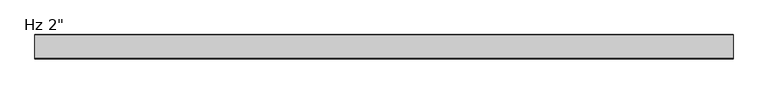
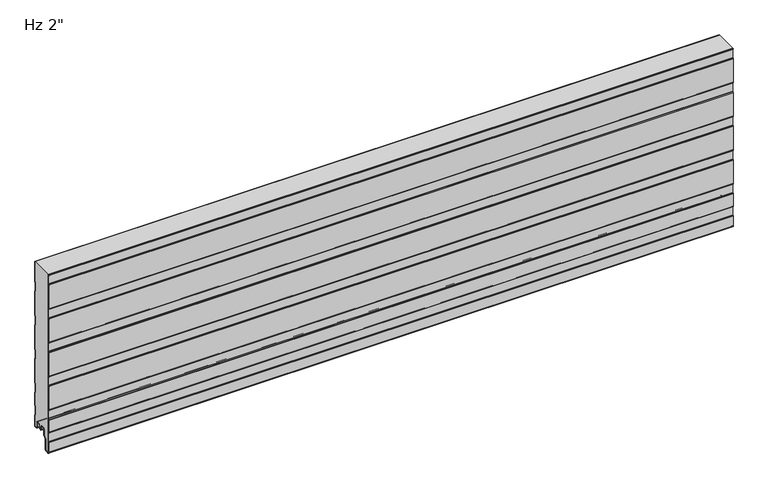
"""IFC4 building model written with IfcOpenShell, lengths in millimetres: plate geometry."""

import ifcopenshell
import ifcopenshell.guid

model = None  # the IFC model being written
_history = None  # IfcOwnerHistory: only IFC2X3 demands one
_inside = {}  # id of a spatial element -> (the spatial element, [elements in it])
_under = {}  # id of a project, library or spatial element -> (it, [spatial elements below it])
_declared = {}  # id of a project -> (the project, [libraries it declares])
_typed = {}  # id of a type object -> (the type object, [elements of that type])
_made_of = {}  # id of a material, layer set ... -> (it, [elements and type objects made of it])


def new_model(schema):
    """Start an empty IFC model of exactly this schema.

    Asked for "IFC4X3", IfcOpenShell would pick the latest addendum, in which some entities
    have other attributes; the version numbers below select the first issue.
    IFC2X3 requires an IfcOwnerHistory on every rooted entity: one is made here for all.
    """
    global model, _history
    if schema == "IFC4X3":
        model = ifcopenshell.file(schema_version=(4, 3, 0, 0))
    else:
        model = ifcopenshell.file(schema=schema)
    _inside.clear()
    _under.clear()
    _declared.clear()
    _typed.clear()
    _made_of.clear()
    _history = None
    if model.schema == "IFC2X3":
        org = make("IfcOrganization", Name="unknown")
        user = make(
            "IfcPersonAndOrganization",
            ThePerson=make("IfcPerson", FamilyName="unknown"),
            TheOrganization=org,
        )
        app = make(
            "IfcApplication",
            ApplicationDeveloper=org,
            Version="unknown",
            ApplicationFullName="unknown",
            ApplicationIdentifier="unknown",
        )
        _history = make(
            "IfcOwnerHistory",
            OwningUser=user,
            OwningApplication=app,
            ChangeAction="ADDED",
            CreationDate=0,
        )
    return model


def make(cls, **values):
    """One entity of the class cls with the attributes given. An attribute that is None is left unset."""
    return model.create_entity(
        cls, **{name: value for name, value in values.items() if value is not None}
    )


def rooted(cls, **values):
    """An entity with a GlobalId (a new one), such as an element, a storey or a relation."""
    return make(cls, GlobalId=ifcopenshell.guid.new(), OwnerHistory=_history, **values)


def si_unit(unit_type, name, prefix=None):
    """IfcSIUnit, for example si_unit("LENGTHUNIT", "METRE", prefix="MILLI")."""
    return make("IfcSIUnit", UnitType=unit_type, Prefix=prefix, Name=name)


def assignment(units):
    """IfcUnitAssignment: the units of a project."""
    return None if units is None else make("IfcUnitAssignment", Units=units)


def point(xyz):
    """IfcCartesianPoint."""
    return None if xyz is None else make("IfcCartesianPoint", Coordinates=xyz)


def direction(xyz):
    """IfcDirection."""
    return None if xyz is None else make("IfcDirection", DirectionRatios=xyz)


def frame(location, z_axis=None, x_axis=None):
    """IfcAxis2Placement3D, a coordinate frame: its origin and axes. An axis left out is left unset."""
    return make(
        "IfcAxis2Placement3D",
        Location=point(location),
        Axis=direction(z_axis),
        RefDirection=direction(x_axis),
    )


def frame_2d(location, x_axis=None):
    """IfcAxis2Placement2D, a coordinate frame in the plane: its origin and x axis."""
    return make(
        "IfcAxis2Placement2D", Location=point(location), RefDirection=direction(x_axis)
    )


def origin():
    """The frame at (0, 0, 0) with its axes left unset."""
    return frame((0.0, 0.0, 0.0))


def place(relative_to, where):
    """IfcLocalPlacement: puts the frame where relative to a parent placement (None: the world)."""
    return make(
        "IfcLocalPlacement", PlacementRelTo=relative_to, RelativePlacement=where
    )


def context(
    kind, dimensions, precision=None, world=None, true_north=None, identifier=None
):
    """IfcGeometricRepresentationContext, for example the 3D "Model" context."""
    return make(
        "IfcGeometricRepresentationContext",
        ContextIdentifier=identifier,
        ContextType=kind,
        CoordinateSpaceDimension=dimensions,
        Precision=precision,
        WorldCoordinateSystem=world,
        TrueNorth=true_north,
    )


def project(units=None, contexts=None):
    """IfcProject with its units and contexts."""
    return rooted(
        "IfcProject",
        Name="project",
        RepresentationContexts=contexts,
        UnitsInContext=assignment(units),
    )


def spatial(cls, under=None, at=None, **own):
    """A site, building, storey or space (cls), placed at a placement, below another one or the project."""
    s = rooted(cls, ObjectPlacement=at, **own)
    if under is not None:
        _under.setdefault(under.id(), (under, []))[1].append(s)
    return s


def polyline(points):
    """IfcPolyline through the points."""
    return make("IfcPolyline", Points=[point(p) for p in points])


def circle_curve(where, radius):
    """IfcCircle in the frame where."""
    return make("IfcCircle", Position=where, Radius=radius)


def trimmed(basis, trim1, trim2, sense, master):
    """IfcTrimmedCurve: the piece of a basis curve between two trims."""
    return make(
        "IfcTrimmedCurve",
        BasisCurve=basis,
        Trim1=trim1,
        Trim2=trim2,
        SenseAgreement=sense,
        MasterRepresentation=master,
    )


def segment(curve, same_sense, transition):
    """IfcCompositeCurveSegment."""
    return make(
        "IfcCompositeCurveSegment",
        Transition=transition,
        SameSense=same_sense,
        ParentCurve=curve,
    )


def composite_curve(segments, self_intersect=None):
    """IfcCompositeCurve: segments joined end to end."""
    return make("IfcCompositeCurve", Segments=segments, SelfIntersect=self_intersect)


def outline(outer, holes=None, kind="AREA"):
    """IfcArbitraryClosedProfileDef: a profile drawn as a closed curve; with holes, ...WithVoids."""
    if holes is None:
        return make("IfcArbitraryClosedProfileDef", ProfileType=kind, OuterCurve=outer)
    return make(
        "IfcArbitraryProfileDefWithVoids",
        ProfileType=kind,
        OuterCurve=outer,
        InnerCurves=holes,
    )


def extrude(swept, where, along, depth):
    """IfcExtrudedAreaSolid: the profile swept, set in the frame where, extruded along a direction by depth."""
    return make(
        "IfcExtrudedAreaSolid",
        SweptArea=swept,
        Position=where,
        ExtrudedDirection=direction(along),
        Depth=depth,
    )


def shape(context_of_items, identifier, shape_type, items):
    """IfcShapeRepresentation: the items that make up one representation, for example the "Body"."""
    return make(
        "IfcShapeRepresentation",
        ContextOfItems=context_of_items,
        RepresentationIdentifier=identifier,
        RepresentationType=shape_type,
        Items=items,
    )


def source(mapping_origin, context_of_items, identifier, shape_type, items):
    """IfcRepresentationMap: a shape defined once, which mapped items show again and again."""
    return make(
        "IfcRepresentationMap",
        MappingOrigin=mapping_origin,
        MappedRepresentation=shape(context_of_items, identifier, shape_type, items),
    )


def transform(
    local_origin,
    x_axis=None,
    y_axis=None,
    z_axis=None,
    scale=None,
    scale2=None,
    scale3=None,
    uniform=True,
):
    """IfcCartesianTransformationOperator3D, or its non-uniform kind. x_axis, y_axis, z_axis: its Axis1, 2, 3."""
    if uniform:
        return make(
            "IfcCartesianTransformationOperator3D",
            Axis1=direction(x_axis),
            Axis2=direction(y_axis),
            LocalOrigin=point(local_origin),
            Scale=scale,
            Axis3=direction(z_axis),
        )
    return make(
        "IfcCartesianTransformationOperator3DnonUniform",
        Axis1=direction(x_axis),
        Axis2=direction(y_axis),
        LocalOrigin=point(local_origin),
        Scale=scale,
        Axis3=direction(z_axis),
        Scale2=scale2,
        Scale3=scale3,
    )


def mapped(mapping_source, mapping_target):
    """IfcMappedItem: shows the shape of a source again, moved by a transform."""
    return make(
        "IfcMappedItem", MappingSource=mapping_source, MappingTarget=mapping_target
    )


def made_of(thing, what):
    """Note that an element or type object is made of a material, layer set ...; save() writes the relation."""
    if what is not None:
        _made_of.setdefault(what.id(), (what, []))[1].append(thing)
    return thing


def element(
    cls,
    number,
    at=None,
    inside=None,
    cuts=None,
    type_object=None,
    material=None,
    context=None,
    identifier="Body",
    shape_type=None,
    held_by="IfcProductDefinitionShape",
    body=None,
    shapes=None,
    **own,
):
    """One element of the class cls, such as IfcWall. Its Tag is "e" and its number.

    at: its placement. inside: the storey or other place that contains it. cuts: it is an
    opening in that element (IfcRelVoidsElement). A single representation is given by context,
    identifier, shape_type and body (its items); several are given by shapes. held_by: the class
    of the entity that holds the representations. save() writes the other relations.
    """
    e = rooted(cls, Tag="e%d" % number, ObjectPlacement=at, **own)
    if body is not None:
        shapes = [shape(context, identifier, shape_type, body)]
    if shapes is not None:
        e.Representation = make(held_by, Representations=shapes)
    if inside is not None:
        _inside.setdefault(inside.id(), (inside, []))[1].append(e)
    if cuts is not None:
        rooted(
            "IfcRelVoidsElement", RelatingBuildingElement=cuts, RelatedOpeningElement=e
        )
    if type_object is not None:
        _typed.setdefault(type_object.id(), (type_object, []))[1].append(e)
    return made_of(e, material)


def aggregate(whole, parts):
    """IfcRelAggregates: a whole, such as a stair, and the parts it consists of."""
    return rooted("IfcRelAggregates", RelatingObject=whole, RelatedObjects=parts)


def save(model, path):
    """Write the relations noted so far, then the file.

    IfcRelAggregates (storeys below a building ...), IfcRelContainedInSpatialStructure (elements
    in a storey), IfcRelDefinesByType, IfcRelAssociatesMaterial and IfcRelDeclares: one each for
    every whole, place, type object, material and project.
    """
    for whole, parts in _under.values():
        aggregate(whole, parts)
    for where, things in _inside.values():
        rooted(
            "IfcRelContainedInSpatialStructure",
            RelatedElements=things,
            RelatingStructure=where,
        )
    for kind, things in _typed.values():
        rooted("IfcRelDefinesByType", RelatedObjects=things, RelatingType=kind)
    for what, things in _made_of.values():
        rooted("IfcRelAssociatesMaterial", RelatedObjects=things, RelatingMaterial=what)
    for by, libraries in _declared.values():
        rooted("IfcRelDeclares", RelatingContext=by, RelatedDefinitions=libraries)
    model.write(path)


def plane_surface(at):
    """IfcPlane: the flat surface through the origin of the frame at, square to its z axis."""
    return make("IfcPlane", Position=at)


def cylinder_surface(at, radius):
    """IfcCylindricalSurface: all points at the distance radius from the z axis of the frame at."""
    return make("IfcCylindricalSurface", Position=at, Radius=radius)


def revolved_surface(curve, axis_point, axis_direction):
    """IfcSurfaceOfRevolution: the curve turned about the line through axis_point along axis_direction."""
    return make(
        "IfcSurfaceOfRevolution",
        SweptCurve=make("IfcArbitraryOpenProfileDef", ProfileType="CURVE", Curve=curve),
        AxisPosition=make("IfcAxis1Placement", Location=point(axis_point), Axis=direction(axis_direction)),
    )


def advanced_brep(points, edges, surfaces, faces):
    """IfcAdvancedBrep: a solid bounded by faces that lie on surfaces and meet in shared edges.

    An edge is (start, end): straight between two places in points (the first is 0);
    or (start, end, curve); or (start, end, curve, False) where it runs against its curve.
    A face is (place in surfaces, loops), or (place, loops, False) where it looks against
    its surface's normal. A loop lists edges by number (the first is 1), with a minus sign
    where the edge is run from its end to its start. The first loop is the outer one.
    """
    corners = [point(p) for p in points]
    vertices = [make("IfcVertexPoint", VertexGeometry=c) for c in corners]
    made = []
    for start, end, *more in edges:
        made.append(
            make(
                "IfcEdgeCurve",
                EdgeStart=vertices[start],
                EdgeEnd=vertices[end],
                EdgeGeometry=more[0] if more else make("IfcPolyline", Points=[corners[start], corners[end]]),
                SameSense=more[1] if len(more) > 1 else True,
            )
        )
    hull = []
    for where, loops, *sense in faces:
        bounds = []
        for j, loop in enumerate(loops):
            ring = [make("IfcOrientedEdge", EdgeElement=made[abs(k) - 1], Orientation=k > 0) for k in loop]
            bounds.append(
                make(
                    "IfcFaceOuterBound" if j == 0 else "IfcFaceBound",
                    Bound=make("IfcEdgeLoop", EdgeList=ring),
                    Orientation=True,
                )
            )
        hull.append(make("IfcAdvancedFace", Bounds=bounds, FaceSurface=surfaces[where], SameSense=sense[0] if sense else True))
    return make("IfcAdvancedBrep", Outer=make("IfcClosedShell", CfsFaces=hull))


def plate_e37267dc(model_context):
    return source(origin(), model_context, "Body", "SolidModel", [
        extrude(outline(composite_curve([segment(trimmed(circle_curve(frame_2d((-49.3998717, -10.6415934)), 1.3998661), [point((-50.7997378, -10.6415934))], [point((-50.3324955, -9.5976403))], False, "CARTESIAN"), True, "CONTINUOUS"), segment(polyline([(-50.3324955, -9.5976403), (-49.5997693, -8.8649141), (-49.5997693, 10.0260713), (-50.3327349, 10.7590369)]), True, "CONTINUOUS"), segment(trimmed(circle_curve(frame_2d((-49.4000237, 11.8030877)), 1.3999972), [point((-50.3327349, 10.7590369))], [point((-50.8, 11.810741))], False, "CARTESIAN"), True, "CONTINUOUS"), segment(polyline([(-50.8, 11.810741), (-50.8, 40.1582542)]), True, "CONTINUOUS"), segment(trimmed(circle_curve(frame_2d((-49.4000028, 40.1582542)), 1.3999972), [point((-50.8, 40.1582542))], [point((-50.332714, 41.202305))], False, "CARTESIAN"), True, "CONTINUOUS"), segment(polyline([(-50.332714, 41.202305), (-49.5997693, 41.9352497), (-49.5997693, 60.8259189), (-50.3327349, 61.5588845)]), True, "CONTINUOUS"), segment(trimmed(circle_curve(frame_2d((-49.4000237, 62.6029353)), 1.3999972), [point((-50.3327349, 61.5588845))], [point((-50.8, 62.6105886))], False, "CARTESIAN"), True, "CONTINUOUS"), segment(polyline([(-50.8, 62.6105886), (-50.8, 116.3581018)]), True, "CONTINUOUS"), segment(trimmed(circle_curve(frame_2d((-49.4000028, 116.3581018)), 1.3999972), [point((-50.8, 116.3581018))], [point((-50.332714, 117.4021526))], False, "CARTESIAN"), True, "CONTINUOUS"), segment(polyline([(-50.332714, 117.4021526), (-49.5997693, 118.1350973), (-49.5997693, 137.0257665), (-50.3327349, 137.7587321)]), True, "CONTINUOUS"), segment(trimmed(circle_curve(frame_2d((-49.4000237, 138.8027829)), 1.3999972), [point((-50.3327349, 137.7587321))], [point((-50.8, 138.8104362))], False, "CARTESIAN"), True, "CONTINUOUS"), segment(polyline([(-50.8, 138.8104362), (-50.8, 192.5579494)]), True, "CONTINUOUS"), segment(trimmed(circle_curve(frame_2d((-49.4000028, 192.5579494)), 1.3999972), [point((-50.8, 192.5579494))], [point((-50.332714, 193.6020002))], False, "CARTESIAN"), True, "CONTINUOUS"), segment(polyline([(-50.332714, 193.6020002), (-49.5997693, 194.3349449), (-49.5997693, 213.2256141), (-50.3327349, 213.9585797)]), True, "CONTINUOUS"), segment(trimmed(circle_curve(frame_2d((-49.4000237, 215.0026305)), 1.3999972), [point((-50.3327349, 213.9585797))], [point((-50.8, 215.0102838))], False, "CARTESIAN"), True, "CONTINUOUS"), segment(polyline([(-50.8, 215.0102838), (-50.8, 268.757797)]), True, "CONTINUOUS"), segment(trimmed(circle_curve(frame_2d((-49.4000028, 268.757797)), 1.3999972), [point((-50.8, 268.757797))], [point((-50.332714, 269.8018478))], False, "CARTESIAN"), True, "CONTINUOUS"), segment(polyline([(-50.332714, 269.8018478), (-49.5997693, 270.5347925), (-49.5997693, 289.4254617), (-50.3327349, 290.1584273)]), True, "CONTINUOUS"), segment(trimmed(circle_curve(frame_2d((-49.4000237, 291.2024781)), 1.3999972), [point((-50.3327349, 290.1584273))], [point((-50.8, 291.2101314))], False, "CARTESIAN"), True, "CONTINUOUS"), segment(polyline([(-50.8, 291.2101314), (-50.8, 344.9576446)]), True, "CONTINUOUS"), segment(trimmed(circle_curve(frame_2d((-49.4000028, 344.9576446)), 1.3999972), [point((-50.8, 344.9576446))], [point((-50.332714, 346.0016954))], False, "CARTESIAN"), True, "CONTINUOUS"), segment(polyline([(-50.332714, 346.0016954), (-49.5997693, 346.7346401), (-49.5997693, 365.6253093), (-50.3327349, 366.3582749)]), True, "CONTINUOUS"), segment(trimmed(circle_curve(frame_2d((-49.4000237, 367.4023257)), 1.3999972), [point((-50.3327349, 366.3582749))], [point((-50.8, 367.409979))], False, "CARTESIAN"), True, "CONTINUOUS"), segment(polyline([(-50.8, 367.409979), (-50.8, 368.0), (-49.8, 368.0), (-49.8, 367.240544), (-48.5997693, 366.0403133), (-48.5997693, 346.3209008), (-49.8, 345.1206701), (-49.8, 291.0405383), (-48.5997693, 289.8403076), (-48.5997693, 270.1208951), (-49.8, 268.9206644), (-49.8, 214.8405326), (-48.5997693, 213.6403019), (-48.5997693, 193.9208894), (-49.8, 192.7206587), (-49.8, 138.6405269), (-48.5997693, 137.4402962), (-48.5997693, 117.7208837), (-49.8, 116.520653), (-49.8, 62.4405213), (-48.5997693, 61.2402905), (-48.5997693, 41.520878), (-49.8, 40.3206473), (-49.8, 11.6405156), (-48.5997693, 10.4402849), (-48.5997693, -9.2791277), (-49.7997378, -10.4790962), (-49.7997378, -32.4521176)]), True, "CONTINUOUS"), segment(trimmed(circle_curve(frame_2d((-47.2294985, -32.4521176)), 2.5702393), [point((-49.7997378, -32.4521176))], [point((-47.0054129, -35.0125699))], True, "CARTESIAN"), True, "CONTINUOUS"), segment(polyline([(-47.0054129, -35.0125699), (-42.023592, -34.5765709)]), True, "CONTINUOUS"), segment(trimmed(circle_curve(frame_2d((-42.5049826, -31.9198392)), 2.6999926), [point((-42.023592, -34.5765709))], [point((-39.80499, -31.9198392))], True, "CARTESIAN"), True, "CONTINUOUS"), segment(polyline([(-39.80499, -31.9198392), (-39.80499, -9.8247096), (-34.3029189, -4.3226385)]), True, "CONTINUOUS"), segment(trimmed(circle_curve(frame_2d((-35.5049966, -3.1205608)), 1.6999946), [point((-34.3029189, -4.3226385))], [point((-33.805002, -3.1205608))], True, "CARTESIAN"), True, "CONTINUOUS"), segment(polyline([(-33.805002, -3.1205608), (-33.805002, 8.6903283)]), True, "CONTINUOUS"), segment(trimmed(circle_curve(frame_2d((-30.4550067, 8.6903283)), 3.3499953), [point((-33.805002, 8.6903283))], [point((-30.4550067, 12.0403236))], False, "CARTESIAN"), True, "CONTINUOUS"), segment(polyline([(-30.4550067, 12.0403236), (-26.0550155, 12.0403236)]), True, "CONTINUOUS"), segment(trimmed(circle_curve(frame_2d((-26.0550155, 8.6903283)), 3.3499953), [point((-26.0550155, 12.0403236))], [point((-22.7050202, 8.6903283))], False, "CARTESIAN"), True, "CONTINUOUS"), segment(polyline([(-22.7050202, 8.6903283), (-22.7050202, 5.9912173), (-21.3065413, 5.9912173), (-21.3065413, 2.2328239)]), True, "CONTINUOUS"), segment(trimmed(circle_curve(frame_2d((-22.506538, 2.2313092)), 1.1999976), [point((-21.3065413, 2.2328239))], [point((-22.4760161, 1.0316999))], False, "CARTESIAN"), True, "CONTINUOUS"), segment(trimmed(circle_curve(frame_2d((-22.506538, 2.2313092)), 1.1999976), [point((-22.4760161, 1.0316999))], [point((-23.7050202, 2.1710221))], False, "CARTESIAN"), True, "CONTINUOUS"), segment(polyline([(-23.7050202, 2.1710221), (-23.7050202, 8.6903283)]), True, "CONTINUOUS"), segment(trimmed(circle_curve(frame_2d((-26.0550155, 8.6903283)), 2.3499953), [point((-23.7050202, 8.6903283))], [point((-26.0550155, 11.0403236))], True, "CARTESIAN"), True, "CONTINUOUS"), segment(polyline([(-26.0550155, 11.0403236), (-30.4550067, 11.0403236)]), True, "CONTINUOUS"), segment(trimmed(circle_curve(frame_2d((-30.4550067, 8.6903283)), 2.3499953), [point((-30.4550067, 11.0403236))], [point((-32.805002, 8.6903283))], True, "CARTESIAN"), True, "CONTINUOUS"), segment(polyline([(-32.805002, 8.6903283), (-32.805002, -3.1205608)]), True, "CONTINUOUS"), segment(trimmed(circle_curve(frame_2d((-35.5049966, -3.1205608)), 2.6999946), [point((-32.805002, -3.1205608))], [point((-33.5958121, -5.0297453))], False, "CARTESIAN"), True, "CONTINUOUS"), segment(polyline([(-33.5958121, -5.0297453), (-38.4242296, -9.8581627)]), True, "CONTINUOUS"), segment(trimmed(circle_curve(frame_2d((-37.5049926, -10.7773997)), 1.2999974), [point((-38.4242296, -9.8581627))], [point((-38.80499, -10.7773997))], True, "CARTESIAN"), True, "CONTINUOUS"), segment(polyline([(-38.80499, -10.7773997), (-38.80499, -31.9198392)]), True, "CONTINUOUS"), segment(trimmed(circle_curve(frame_2d((-42.5049826, -31.9198392)), 3.6999926), [point((-38.80499, -31.9198392))], [point((-41.8941815, -35.5690675))], False, "CARTESIAN"), True, "CONTINUOUS"), segment(polyline([(-41.8941815, -35.5690675), (-46.9182281, -36.008762)]), True, "CONTINUOUS"), segment(trimmed(circle_curve(frame_2d((-47.2294985, -32.4521176)), 3.5702393), [point((-46.9182281, -36.008762))], [point((-50.7997378, -32.4521176))], False, "CARTESIAN"), True, "CONTINUOUS"), segment(polyline([(-50.7997378, -32.4521176), (-50.7997378, -10.6415934)]), True, "CONTINUOUS")], self_intersect=False)), frame((-730.0, 0.0, 0.0), z_axis=(1.0, 0.0, 0.0), x_axis=(0.0, 1.0, 0.0)), (0.0, 0.0, 1.0), 1460.0),
        extrude(outline(composite_curve([segment(trimmed(circle_curve(frame_2d((-22.5013969, 2.2313092)), 1.1999976), [point((-22.470875, 1.0316999))], [point((-21.3014003, 2.2328239))], True, "CARTESIAN"), True, "CONTINUOUS"), segment(polyline([(-21.3014003, 2.2328239), (-21.3014003, 5.9912173), (-22.6998791, 5.9912173), (-22.6998791, 8.6903283)]), True, "CONTINUOUS"), segment(trimmed(circle_curve(frame_2d((-26.0498744, 8.6903283)), 3.3499953), [point((-22.6998791, 8.6903283))], [point((-26.0498744, 12.0403236))], True, "CARTESIAN"), True, "CONTINUOUS"), segment(polyline([(-26.0498744, 12.0403236), (-30.4498656, 12.0403236)]), True, "CONTINUOUS"), segment(trimmed(circle_curve(frame_2d((-30.4498656, 8.6903283)), 3.3499953), [point((-30.4498656, 12.0403236))], [point((-33.7998609, 8.6903283))], True, "CARTESIAN"), True, "CONTINUOUS"), segment(polyline([(-33.7998609, 8.6903283), (-33.7998609, -3.1205608)]), True, "CONTINUOUS"), segment(trimmed(circle_curve(frame_2d((-35.4998555, -3.1205608)), 1.6999946), [point((-33.7998609, -3.1205608))], [point((-34.2977778, -4.3226385))], False, "CARTESIAN"), True, "CONTINUOUS"), segment(polyline([(-34.2977778, -4.3226385), (-39.7998489, -9.8247096), (-39.7998489, -31.9198392)]), True, "CONTINUOUS"), segment(trimmed(circle_curve(frame_2d((-42.4998415, -31.9198392)), 2.6999926), [point((-39.7998489, -31.9198392))], [point((-42.0184509, -34.5765709))], False, "CARTESIAN"), True, "CONTINUOUS"), segment(polyline([(-42.0184509, -34.5765709), (-47.0002718, -35.0125699)]), True, "CONTINUOUS"), segment(trimmed(circle_curve(frame_2d((-47.2243575, -32.4521176)), 2.5702393), [point((-47.0002718, -35.0125699))], [point((-49.7945968, -32.4521176))], False, "CARTESIAN"), True, "CONTINUOUS"), segment(polyline([(-49.7945968, -32.4521176), (-49.7945968, -10.4790962), (-48.5946282, -9.2791277), (-48.5946282, 10.4402849), (-49.7948589, 11.6405156), (-49.7948589, 40.3206473), (-48.5946282, 41.520878), (-48.5946282, 61.2402905), (-49.7948589, 62.4405213), (-49.7948589, 116.520653), (-48.5946282, 117.7208837), (-48.5946282, 137.4402962), (-49.7948589, 138.6405269), (-49.7948589, 192.7206587), (-48.5946282, 193.9208894), (-48.5946282, 213.6403019), (-49.7948589, 214.8405326), (-49.7948589, 268.9206644), (-48.5946282, 270.1208951), (-48.5946282, 289.8403076), (-49.7948589, 291.0405383), (-49.7948589, 345.1206701), (-48.5946282, 346.3209008), (-48.5946282, 366.0403133), (-49.7948589, 367.240544), (-49.7948589, 368.0), (-1.0063443, 368.0), (-1.0063443, 322.5798583), (-2.206575, 321.1942253), (-2.206575, 301.819059), (-1.0063443, 300.4334261), (-1.0063443, 246.3800107), (-2.206575, 244.9943777), (-2.206575, 225.6192114), (-1.0063443, 224.2335785), (-1.0063443, 170.1801631), (-2.206575, 168.7945301), (-2.206575, 149.4193638), (-1.0063443, 148.0337309), (-1.0063443, 93.9803155), (-2.206575, 92.5946825), (-2.206575, 73.2195162), (-1.0063443, 71.8338833), (-1.0063443, 43.1804679), (-2.206575, 41.7948349), (-2.206575, 22.4196686), (-1.0063359, 21.034026), (-1.0063359, -3.4662506), (-5.2378832, -3.4662506)]), True, "CONTINUOUS"), segment(trimmed(circle_curve(frame_2d((-5.2378832, -1.6962564)), 1.7699942), [point((-5.2378832, -3.4662506))], [point((-7.0078774, -1.6962564))], False, "CARTESIAN"), True, "CONTINUOUS"), segment(polyline([(-7.0078774, -1.6962564), (-7.0078774, 8.7237222)]), True, "CONTINUOUS"), segment(trimmed(circle_curve(frame_2d((-10.3078733, 8.7237222)), 3.2999959), [point((-7.0078774, 8.7237222))], [point((-10.3078733, 12.023718))], True, "CARTESIAN"), True, "CONTINUOUS"), segment(polyline([(-10.3078733, 12.023718), (-14.7078645, 12.023718)]), True, "CONTINUOUS"), segment(trimmed(circle_curve(frame_2d((-14.7078645, 8.7237223)), 3.2999957), [point((-14.7078645, 12.023718))], [point((-18.0078602, 8.7237223))], True, "CARTESIAN"), True, "CONTINUOUS"), segment(polyline([(-18.0078602, 8.7237223), (-18.0078602, 6.0315125), (-19.0078547, 6.0315125), (-19.0078547, 2.0313089)]), True, "CONTINUOUS"), segment(trimmed(circle_curve(frame_2d((-18.0078576, 2.0313089)), 0.9999972), [point((-19.0078547, 2.0313089))], [point((-18.0078635, 1.0313117))], True, "CARTESIAN"), True, "CONTINUOUS"), segment(polyline([(-18.0078635, 1.0313117), (-19.0391752, 0.0), (-21.4391751, 0.0), (-22.470875, 1.0316999)]), True, "CONTINUOUS")], self_intersect=False)), frame((-730.0, 0.0, 0.0), z_axis=(1.0, 0.0, 0.0), x_axis=(0.0, 1.0, 0.0)), (0.0, 0.0, 1.0), 1460.0),
        advanced_brep(
        [(-730.0, -17.0015159, 2.0313088), (-730.0, -18.0015191, 1.0313115), (-730.0, -19.0015105, 2.0313088), (-730.0, -19.0015105, 6.0315124), (-730.0, -18.0015159, 6.0315124), (-730.0, -18.0015159, 8.7237222), (-730.0, -14.7015202, 12.0237179), (-730.0, -10.301529, 12.0237179), (-730.0, -7.0015335, 8.7237224), (-730.0, -7.0015335, -1.6962565), (-730.0, -5.2315393, -3.4662507), (-730.0, -0.9999916, -3.4662507), (-730.0, -0.9999916, 21.034026), (-730.0, -2.2002307, 22.4196686), (-730.0, -2.2002307, 41.7948349), (-730.0, -1.0, 43.1804678), (-730.0, -1.0, 71.8338832), (-730.0, -2.2002307, 73.2195162), (-730.0, -2.2002307, 92.5946825), (-730.0, -1.0, 93.9803154), (-730.0, -1.0, 148.0337308), (-730.0, -2.2002307, 149.4193638), (-730.0, -2.2002307, 168.7945301), (-730.0, -1.0, 170.180163), (-730.0, -1.0, 224.2335784), (-730.0, -2.2002307, 225.6192114), (-730.0, -2.2002307, 244.9943777), (-730.0, -1.0, 246.3800106), (-730.0, -1.0, 300.433426), (-730.0, -2.2002307, 301.819059), (-730.0, -2.2002307, 321.1942253), (-730.0, -1.0, 322.5798582), (-730.0, -1.0, 368.0), (-730.0, 0.0, 368.0), (-730.0, 0.0, 322.7290094), (-730.0, -0.3417885, 321.8123925), (-730.0, -1.2002307, 320.8213449), (-730.0, -1.2002307, 302.1919394), (-730.0, -0.3417885, 301.2008918), (-730.0, 0.0, 300.2842749), (-730.0, 0.0, 246.5291618), (-730.0, -0.3417885, 245.6125449), (-730.0, -1.2002307, 244.6214973), (-730.0, -1.2002307, 225.9920918), (-730.0, -0.3417885, 225.0010442), (-730.0, 0.0, 224.0844273), (-730.0, 0.0, 170.3293142), (-730.0, -0.3417885, 169.4126973), (-730.0, -1.2002307, 168.4216497), (-730.0, -1.2002307, 149.7922442), (-730.0, -0.3417885, 148.8011966), (-730.0, 0.0, 147.8845797), (-730.0, 0.0, 94.1294666), (-730.0, -0.3417885, 93.2128497), (-730.0, -1.2002307, 92.2218021), (-730.0, -1.2002307, 73.5923966), (-730.0, -0.3417885, 72.601349), (-730.0, 0.0, 71.6847321), (-730.0, 0.0, 43.329619), (-730.0, -0.3417885, 42.4130021), (-730.0, -1.2002307, 41.4219545), (-730.0, -1.2002307, 22.792549), (-730.0, -0.3417885, 21.8015014), (-730.0, 0.0, 20.8847931), (-730.0, 8.4e-06, -3.0662545), (-730.0, -1.3999878, -4.4662507), (-730.0, -5.2315393, -4.4662507), (-730.0, -8.0015335, -1.6962565), (-730.0, -8.0015335, 8.7237224), (-730.0, -10.301529, 11.0237179), (-730.0, -14.7015202, 11.0237179), (-730.0, -17.0015159, 8.7237222), (730.0, -17.0015159, 2.0313088), (730.0, -17.0015159, 8.7237222), (730.0, -14.7015202, 11.0237179), (730.0, -10.301529, 11.0237179), (730.0, -8.0015335, 8.7237224), (730.0, -8.0015335, -1.6962565), (730.0, -5.2315393, -4.4662507), (730.0, -1.3999878, -4.4662507), (730.0, 8.4e-06, -3.0662545), (730.0, 8.4e-06, 20.8848845), (730.0, -0.3417885, 21.8015014), (730.0, -1.2002307, 22.792549), (730.0, -1.2002307, 41.4219545), (730.0, -0.3417885, 42.4130021), (730.0, 0.0, 43.329619), (730.0, 0.0, 71.6847321), (730.0, -0.3417885, 72.601349), (730.0, -1.2002307, 73.5923966), (730.0, -1.2002307, 92.2218021), (730.0, -0.3417885, 93.2128497), (730.0, 0.0, 94.1294666), (730.0, 0.0, 147.8845797), (730.0, -0.3417885, 148.8011966), (730.0, -1.2002307, 149.7922442), (730.0, -1.2002307, 168.4216497), (730.0, -0.3417885, 169.4126973), (730.0, 0.0, 170.3293142), (730.0, 0.0, 224.0844273), (730.0, -0.3417885, 225.0010442), (730.0, -1.2002307, 225.9920918), (730.0, -1.2002307, 244.6214973), (730.0, -0.3417885, 245.6125449), (730.0, 0.0, 246.5291618), (730.0, 0.0, 300.2842749), (730.0, -0.3417885, 301.2008918), (730.0, -1.2002307, 302.1919394), (730.0, -1.2002307, 320.8213449), (730.0, -0.3417885, 321.8123925), (730.0, 0.0, 322.7290094), (730.0, 0.0, 368.0), (730.0, -1.0, 368.0), (730.0, -1.0, 322.5798582), (730.0, -2.2002307, 321.1942253), (730.0, -2.2002307, 301.819059), (730.0, -1.0, 300.433426), (730.0, -1.0, 246.3800106), (730.0, -2.2002307, 244.9943777), (730.0, -2.2002307, 225.6192114), (730.0, -1.0, 224.2335784), (730.0, -1.0, 170.180163), (730.0, -2.2002307, 168.7945301), (730.0, -2.2002307, 149.4193638), (730.0, -1.0, 148.0337308), (730.0, -1.0, 93.9803154), (730.0, -2.2002307, 92.5946825), (730.0, -2.2002307, 73.2195162), (730.0, -1.0, 71.8338832), (730.0, -1.0, 43.1804678), (730.0, -2.2002307, 41.7948349), (730.0, -2.2002307, 22.4196686), (730.0, -0.9999916, 21.034026), (730.0, -0.9999916, -3.4662507), (730.0, -5.2315393, -3.4662507), (730.0, -7.0015335, -1.6962565), (730.0, -7.0015335, 8.7237224), (730.0, -10.301529, 12.0237179), (730.0, -14.7015202, 12.0237179), (730.0, -18.0015159, 8.7237222), (730.0, -18.0015159, 6.0315124), (730.0, -19.0015105, 6.0315124), (730.0, -19.0015105, 2.0313088), (730.0, -18.0015192, 1.0313116)],
        [
            (0, 1, circle_curve(frame((-730.0, -18.0015132, 2.0313088), z_axis=(-1.0, 0.0, 0.0), x_axis=(0.0, 0.0, 1.0)), 0.9999973)),
            (1, 2, circle_curve(frame((-730.0, -18.0015133, 2.0313088), z_axis=(-1.0, 0.0, 0.0), x_axis=(0.0, 0.0, 1.0)), 0.9999972)),
            (2, 3),
            (3, 4),
            (4, 5),
            (5, 6, circle_curve(frame((-730.0, -14.7015202, 8.7237222), z_axis=(-1.0, 0.0, 0.0), x_axis=(0.0, 0.0, 1.0)), 3.2999957)),
            (6, 7),
            (7, 8, circle_curve(frame((-730.0, -10.301529, 8.7237224), z_axis=(-1.0, 0.0, 0.0), x_axis=(0.0, 0.0, 1.0)), 3.2999955)),
            (8, 9),
            (9, 10, circle_curve(frame((-730.0, -5.2315393, -1.6962565), z_axis=(1.0, 0.0, 0.0), x_axis=(0.0, 0.0, 1.0)), 1.7699942)),
            (10, 11),
            (11, 12),
            (12, 13),
            (13, 14),
            (14, 15),
            (15, 16),
            (16, 17),
            (17, 18),
            (18, 19),
            (19, 20),
            (20, 21),
            (21, 22),
            (22, 23),
            (23, 24),
            (24, 25),
            (25, 26),
            (26, 27),
            (27, 28),
            (28, 29),
            (29, 30),
            (30, 31),
            (31, 32),
            (32, 33),
            (33, 34),
            (34, 35, circle_curve(frame((-730.0, -1.3999972, 322.7290094), z_axis=(-1.0, 0.0, 0.0), x_axis=(0.0, 0.0, 1.0)), 1.3999972)),
            (35, 36),
            (36, 37),
            (37, 38),
            (38, 39, circle_curve(frame((-730.0, -1.3999972, 300.2842749), z_axis=(-1.0, 0.0, 0.0), x_axis=(0.0, 0.0, 1.0)), 1.3999972)),
            (39, 40),
            (40, 41, circle_curve(frame((-730.0, -1.3999972, 246.5291618), z_axis=(-1.0, 0.0, 0.0), x_axis=(0.0, 0.0, 1.0)), 1.3999972)),
            (41, 42),
            (42, 43),
            (43, 44),
            (44, 45, circle_curve(frame((-730.0, -1.3999972, 224.0844273), z_axis=(-1.0, 0.0, 0.0), x_axis=(0.0, 0.0, 1.0)), 1.3999972)),
            (45, 46),
            (46, 47, circle_curve(frame((-730.0, -1.3999972, 170.3293142), z_axis=(-1.0, 0.0, 0.0), x_axis=(0.0, 0.0, 1.0)), 1.3999972)),
            (47, 48),
            (48, 49),
            (49, 50),
            (50, 51, circle_curve(frame((-730.0, -1.3999972, 147.8845797), z_axis=(-1.0, 0.0, 0.0), x_axis=(0.0, 0.0, 1.0)), 1.3999972)),
            (51, 52),
            (52, 53, circle_curve(frame((-730.0, -1.3999972, 94.1294666), z_axis=(-1.0, 0.0, 0.0), x_axis=(0.0, 0.0, 1.0)), 1.3999972)),
            (53, 54),
            (54, 55),
            (55, 56),
            (56, 57, circle_curve(frame((-730.0, -1.3999972, 71.6847321), z_axis=(-1.0, 0.0, 0.0), x_axis=(0.0, 0.0, 1.0)), 1.3999972)),
            (57, 58),
            (58, 59, circle_curve(frame((-730.0, -1.3999972, 43.329619), z_axis=(-1.0, 0.0, 0.0), x_axis=(0.0, 0.0, 1.0)), 1.3999972)),
            (59, 60),
            (60, 61),
            (61, 62),
            (62, 63, circle_curve(frame((-730.0, -1.3999972, 20.8848845), z_axis=(-1.0, 0.0, 0.0), x_axis=(0.0, 0.0, 1.0)), 1.3999972)),
            (63, 64),
            (64, 65, circle_curve(frame((-730.0, -1.3999878, -3.0662545), z_axis=(-1.0, 0.0, 0.0), x_axis=(0.0, 0.0, 1.0)), 1.3999962)),
            (65, 66),
            (66, 67, circle_curve(frame((-730.0, -5.2315393, -1.6962565), z_axis=(-1.0, 0.0, 0.0), x_axis=(0.0, 0.0, 1.0)), 2.7699942)),
            (67, 68),
            (68, 69, circle_curve(frame((-730.0, -10.301529, 8.7237224), z_axis=(1.0, 0.0, 0.0), x_axis=(0.0, 0.0, 1.0)), 2.2999955)),
            (69, 70),
            (70, 71, circle_curve(frame((-730.0, -14.7015202, 8.7237222), z_axis=(1.0, 0.0, 0.0), x_axis=(0.0, 0.0, 1.0)), 2.2999957)),
            (71, 0),
            (72, 73),
            (73, 74, circle_curve(frame((730.0, -14.7015202, 8.7237222), z_axis=(-1.0, 0.0, 0.0), x_axis=(0.0, 0.0, 1.0)), 2.2999957)),
            (74, 75),
            (75, 76, circle_curve(frame((730.0, -10.301529, 8.7237224), z_axis=(-1.0, 0.0, 0.0), x_axis=(0.0, 0.0, 1.0)), 2.2999955)),
            (76, 77),
            (77, 78, circle_curve(frame((730.0, -5.2315393, -1.6962565), z_axis=(1.0, 0.0, 0.0), x_axis=(0.0, 0.0, 1.0)), 2.7699942)),
            (78, 79),
            (79, 80, circle_curve(frame((730.0, -1.3999878, -3.0662545), z_axis=(1.0, 0.0, 0.0), x_axis=(0.0, 0.0, 1.0)), 1.3999962)),
            (80, 81),
            (81, 82, circle_curve(frame((730.0, -1.3999972, 20.8848845), z_axis=(1.0, 0.0, 0.0), x_axis=(0.0, 0.0, 1.0)), 1.3999972)),
            (82, 83),
            (83, 84),
            (84, 85),
            (85, 86, circle_curve(frame((730.0, -1.3999972, 43.329619), z_axis=(1.0, 0.0, 0.0), x_axis=(0.0, 0.0, 1.0)), 1.3999972)),
            (86, 87),
            (87, 88, circle_curve(frame((730.0, -1.3999972, 71.6847321), z_axis=(1.0, 0.0, 0.0), x_axis=(0.0, 0.0, 1.0)), 1.3999972)),
            (88, 89),
            (89, 90),
            (90, 91),
            (91, 92, circle_curve(frame((730.0, -1.3999972, 94.1294666), z_axis=(1.0, 0.0, 0.0), x_axis=(0.0, 0.0, 1.0)), 1.3999972)),
            (92, 93),
            (93, 94, circle_curve(frame((730.0, -1.3999972, 147.8845797), z_axis=(1.0, 0.0, 0.0), x_axis=(0.0, 0.0, 1.0)), 1.3999972)),
            (94, 95),
            (95, 96),
            (96, 97),
            (97, 98, circle_curve(frame((730.0, -1.3999972, 170.3293142), z_axis=(1.0, 0.0, 0.0), x_axis=(0.0, 0.0, 1.0)), 1.3999972)),
            (98, 99),
            (99, 100, circle_curve(frame((730.0, -1.3999972, 224.0844273), z_axis=(1.0, 0.0, 0.0), x_axis=(0.0, 0.0, 1.0)), 1.3999972)),
            (100, 101),
            (101, 102),
            (102, 103),
            (103, 104, circle_curve(frame((730.0, -1.3999972, 246.5291618), z_axis=(1.0, 0.0, 0.0), x_axis=(0.0, 0.0, 1.0)), 1.3999972)),
            (104, 105),
            (105, 106, circle_curve(frame((730.0, -1.3999972, 300.2842749), z_axis=(1.0, 0.0, 0.0), x_axis=(0.0, 0.0, 1.0)), 1.3999972)),
            (106, 107),
            (107, 108),
            (108, 109),
            (109, 110, circle_curve(frame((730.0, -1.3999972, 322.7290094), z_axis=(1.0, 0.0, 0.0), x_axis=(0.0, 0.0, 1.0)), 1.3999972)),
            (110, 111),
            (111, 112),
            (112, 113),
            (113, 114),
            (114, 115),
            (115, 116),
            (116, 117),
            (117, 118),
            (118, 119),
            (119, 120),
            (120, 121),
            (121, 122),
            (122, 123),
            (123, 124),
            (124, 125),
            (125, 126),
            (126, 127),
            (127, 128),
            (128, 129),
            (129, 130),
            (130, 131),
            (131, 132),
            (132, 133),
            (133, 134),
            (134, 135, circle_curve(frame((730.0, -5.2315393, -1.6962565), z_axis=(-1.0, 0.0, 0.0), x_axis=(0.0, 0.0, 1.0)), 1.7699942)),
            (135, 136),
            (136, 137, circle_curve(frame((730.0, -10.301529, 8.7237224), z_axis=(1.0, 0.0, 0.0), x_axis=(0.0, 0.0, 1.0)), 3.2999955)),
            (137, 138),
            (138, 139, circle_curve(frame((730.0, -14.7015202, 8.7237222), z_axis=(1.0, 0.0, 0.0), x_axis=(0.0, 0.0, 1.0)), 3.2999957)),
            (139, 140),
            (140, 141),
            (141, 142),
            (142, 143, circle_curve(frame((730.0, -18.0015133, 2.0313088), z_axis=(1.0, 0.0, 0.0), x_axis=(0.0, 0.0, 1.0)), 0.9999972)),
            (143, 72, circle_curve(frame((730.0, -18.0015132, 2.0313088), z_axis=(1.0, 0.0, 0.0), x_axis=(0.0, 0.0, 1.0)), 0.9999973)),
            (32, 112),
            (111, 33),
            (67, 77),
            (76, 68),
            (0, 72),
            (143, 1),
            (71, 73),
            (70, 74),
            (75, 69),
            (65, 79),
            (78, 66),
            (64, 80),
            (63, 81),
            (2, 142),
            (141, 3),
            (56, 88),
            (87, 57),
            (61, 83),
            (82, 62),
            (60, 84),
            (58, 86),
            (85, 59),
            (50, 94),
            (93, 51),
            (54, 90),
            (89, 55),
            (52, 92),
            (91, 53),
            (44, 100),
            (99, 45),
            (48, 96),
            (95, 49),
            (46, 98),
            (97, 47),
            (38, 106),
            (105, 39),
            (42, 102),
            (101, 43),
            (40, 104),
            (103, 41),
            (36, 108),
            (107, 37),
            (34, 110),
            (109, 35),
            (27, 117),
            (116, 28),
            (115, 29),
            (114, 30),
            (113, 31),
            (26, 118),
            (25, 119),
            (24, 120),
            (23, 121),
            (22, 122),
            (21, 123),
            (20, 124),
            (19, 125),
            (18, 126),
            (17, 127),
            (16, 128),
            (15, 129),
            (14, 130),
            (140, 4),
            (139, 5),
            (138, 6),
            (137, 7),
            (136, 8),
            (135, 9),
            (12, 132),
            (131, 13),
            (11, 133),
            (10, 134),
        ],
        [
            plane_surface(frame((-730.0, 0.0, 508.0), z_axis=(-1.0, 0.0, 0.0), x_axis=(0.0, 1.0, 0.0))),
            plane_surface(frame((730.0, 0.0, 508.0), z_axis=(1.0, 0.0, 0.0), x_axis=(0.0, 1.0, 0.0))),
            plane_surface(frame((730.0, 10.0, 368.0), z_axis=(0.0, 0.0, 1.0), x_axis=(-1.0, 0.0, 0.0))),
            plane_surface(frame((-730.0, -8.0015335, 8.7237224), z_axis=(0.0, -1.0, 0.0), x_axis=(1.0, 0.0, 0.0))),
            cylinder_surface(frame((-730.0, -18.0015132, 2.0313088), z_axis=(-1.0, 0.0, 0.0), x_axis=(0.0, 0.0, 1.0)), 0.9999973),
            plane_surface(frame((-730.0, -17.0015159, 2.0313088), z_axis=(0.0, 1.0, 0.0), x_axis=(1.0, 0.0, 0.0))),
            revolved_surface(polyline([(730.0, -14.7015202, 11.0237179), (-730.0, -14.7015202, 11.0237179)]), (-730.0, -14.7015202, 8.7237222), (1.0, 0.0, 0.0)),
            revolved_surface(polyline([(730.0, -10.301529, 11.0237179), (-730.0, -10.301529, 11.0237179)]), (-730.0, -10.301529, 8.7237224), (1.0, 0.0, 0.0)),
            plane_surface(frame((-730.0, -14.7015202, 11.0237179), z_axis=(0.0, 0.0, -1.0), x_axis=(1.0, 0.0, 0.0))),
            plane_surface(frame((-730.0, -5.2315393, -4.4662507), z_axis=(0.0, 0.0, -1.0), x_axis=(1.0, 0.0, 0.0))),
            cylinder_surface(frame((-730.0, -1.3999878, -3.0662545), z_axis=(-1.0, 0.0, 0.0), x_axis=(0.0, 0.0, 1.0)), 1.3999962),
            cylinder_surface(frame((-730.0, -5.2315393, -1.6962565), z_axis=(-1.0, 0.0, 0.0), x_axis=(0.0, 0.0, 1.0)), 2.7699942),
            plane_surface(frame((-730.0, 8.4e-06, -3.0662545), z_axis=(0.0, 1.0, 0.0), x_axis=(1.0, 0.0, 0.0))),
            plane_surface(frame((-730.0, -19.0015105, 6.0315124), z_axis=(0.0, -1.0, 0.0), x_axis=(1.0, 0.0, 0.0))),
            cylinder_surface(frame((-730.0, -18.0015133, 2.0313088), z_axis=(-1.0, 0.0, 0.0), x_axis=(0.0, 0.0, 1.0)), 0.9999972),
            cylinder_surface(frame((-730.0, -1.3999972, 71.6847321), z_axis=(-1.0, 0.0, 0.0), x_axis=(0.0, 0.0, 1.0)), 1.3999972),
            plane_surface(frame((-730.0, -0.3417885, 21.8015014), z_axis=(0.0, 0.755864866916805, 0.6547276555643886), x_axis=(1.0, 0.0, 0.0))),
            plane_surface(frame((-730.0, -1.2002307, 32.1072517), z_axis=(0.0, 1.0, 0.0), x_axis=(1.0, 0.0, 0.0))),
            cylinder_surface(frame((-730.0, -1.3999972, 20.8848845), z_axis=(-1.0, 0.0, 0.0), x_axis=(0.0, 0.0, 1.0)), 1.3999972),
            cylinder_surface(frame((-730.0, -1.3999972, 43.329619), z_axis=(-1.0, 0.0, 0.0), x_axis=(0.0, 0.0, 1.0)), 1.3999972),
            plane_surface(frame((-730.0, -1.2002307, 41.4219545), z_axis=(0.0, 0.755864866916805, -0.6547276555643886), x_axis=(1.0, 0.0, 0.0))),
            cylinder_surface(frame((-730.0, -1.3999972, 147.8845797), z_axis=(-1.0, 0.0, 0.0), x_axis=(0.0, 0.0, 1.0)), 1.3999972),
            plane_surface(frame((-730.0, -1.2002307, 82.9070993), z_axis=(0.0, 1.0, 0.0), x_axis=(1.0, 0.0, 0.0))),
            cylinder_surface(frame((-730.0, -1.3999972, 94.1294666), z_axis=(-1.0, 0.0, 0.0), x_axis=(0.0, 0.0, 1.0)), 1.3999972),
            plane_surface(frame((-730.0, -0.3417885, 72.601349), z_axis=(0.0, 0.755864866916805, 0.6547276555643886), x_axis=(1.0, 0.0, 0.0))),
            plane_surface(frame((-730.0, -1.2002307, 92.2218021), z_axis=(0.0, 0.755864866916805, -0.6547276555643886), x_axis=(1.0, 0.0, 0.0))),
            plane_surface(frame((-730.0, 0.0, 43.329619), z_axis=(0.0, 1.0, 0.0), x_axis=(1.0, 0.0, 0.0))),
            cylinder_surface(frame((-730.0, -1.3999972, 224.0844273), z_axis=(-1.0, 0.0, 0.0), x_axis=(0.0, 0.0, 1.0)), 1.3999972),
            plane_surface(frame((-730.0, -1.2002307, 159.1069469), z_axis=(0.0, 1.0, 0.0), x_axis=(1.0, 0.0, 0.0))),
            cylinder_surface(frame((-730.0, -1.3999972, 170.3293142), z_axis=(-1.0, 0.0, 0.0), x_axis=(0.0, 0.0, 1.0)), 1.3999972),
            plane_surface(frame((-730.0, -0.3417885, 148.8011966), z_axis=(0.0, 0.755864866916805, 0.6547276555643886), x_axis=(1.0, 0.0, 0.0))),
            plane_surface(frame((-730.0, -1.2002307, 168.4216497), z_axis=(0.0, 0.755864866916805, -0.6547276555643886), x_axis=(1.0, 0.0, 0.0))),
            plane_surface(frame((-730.0, 0.0, 94.1294666), z_axis=(0.0, 1.0, 0.0), x_axis=(1.0, 0.0, 0.0))),
            cylinder_surface(frame((-730.0, -1.3999972, 300.2842749), z_axis=(-1.0, 0.0, 0.0), x_axis=(0.0, 0.0, 1.0)), 1.3999972),
            plane_surface(frame((-730.0, -1.2002307, 235.3067945), z_axis=(0.0, 1.0, 0.0), x_axis=(1.0, 0.0, 0.0))),
            cylinder_surface(frame((-730.0, -1.3999972, 246.5291618), z_axis=(-1.0, 0.0, 0.0), x_axis=(0.0, 0.0, 1.0)), 1.3999972),
            plane_surface(frame((-730.0, -0.3417885, 225.0010442), z_axis=(0.0, 0.755864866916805, 0.6547276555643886), x_axis=(1.0, 0.0, 0.0))),
            plane_surface(frame((-730.0, -1.2002307, 244.6214973), z_axis=(0.0, 0.755864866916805, -0.6547276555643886), x_axis=(1.0, 0.0, 0.0))),
            plane_surface(frame((-730.0, 0.0, 170.3293142), z_axis=(0.0, 1.0, 0.0), x_axis=(1.0, 0.0, 0.0))),
            plane_surface(frame((-730.0, -1.2002307, 311.5066421), z_axis=(0.0, 1.0, 0.0), x_axis=(1.0, 0.0, 0.0))),
            cylinder_surface(frame((-730.0, -1.3999972, 322.7290094), z_axis=(-1.0, 0.0, 0.0), x_axis=(0.0, 0.0, 1.0)), 1.3999972),
            plane_surface(frame((-730.0, -0.3417885, 301.2008918), z_axis=(0.0, 0.755864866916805, 0.6547276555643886), x_axis=(1.0, 0.0, 0.0))),
            plane_surface(frame((-730.0, -1.2002307, 320.8213449), z_axis=(0.0, 0.755864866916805, -0.6547276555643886), x_axis=(1.0, 0.0, 0.0))),
            plane_surface(frame((-730.0, 0.0, 246.5291618), z_axis=(0.0, 1.0, 0.0), x_axis=(1.0, 0.0, 0.0))),
            plane_surface(frame((-730.0, 0.0, 322.7290094), z_axis=(0.0, 1.0, 0.0), x_axis=(1.0, 0.0, 0.0))),
            plane_surface(frame((-730.0, -1.0, 300.433426), z_axis=(0.0, -1.0, 0.0), x_axis=(1.0, 0.0, 0.0))),
            plane_surface(frame((-730.0, -2.2002307, 301.819059), z_axis=(0.0, -0.755864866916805, -0.6547276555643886), x_axis=(1.0, 0.0, 0.0))),
            plane_surface(frame((-730.0, -2.2002307, 321.1942253), z_axis=(0.0, -1.0, 0.0), x_axis=(1.0, 0.0, 0.0))),
            plane_surface(frame((-730.0, -1.0, 322.5798582), z_axis=(0.0, -0.755864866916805, 0.6547276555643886), x_axis=(1.0, 0.0, 0.0))),
            plane_surface(frame((-730.0, -1.0, 376.6332736), z_axis=(0.0, -1.0, 0.0), x_axis=(1.0, 0.0, 0.0))),
            plane_surface(frame((-730.0, -1.0, 246.3800106), z_axis=(0.0, -0.755864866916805, 0.6547276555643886), x_axis=(1.0, 0.0, 0.0))),
            plane_surface(frame((-730.0, -2.2002307, 244.9943777), z_axis=(0.0, -1.0, 0.0), x_axis=(1.0, 0.0, 0.0))),
            plane_surface(frame((-730.0, -2.2002307, 225.6192114), z_axis=(0.0, -0.755864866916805, -0.6547276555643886), x_axis=(1.0, 0.0, 0.0))),
            plane_surface(frame((-730.0, -1.0, 224.2335784), z_axis=(0.0, -1.0, 0.0), x_axis=(1.0, 0.0, 0.0))),
            plane_surface(frame((-730.0, -1.0, 170.180163), z_axis=(0.0, -0.755864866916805, 0.6547276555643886), x_axis=(1.0, 0.0, 0.0))),
            plane_surface(frame((-730.0, -2.2002307, 168.7945301), z_axis=(0.0, -1.0, 0.0), x_axis=(1.0, 0.0, 0.0))),
            plane_surface(frame((-730.0, -2.2002307, 149.4193638), z_axis=(0.0, -0.755864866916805, -0.6547276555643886), x_axis=(1.0, 0.0, 0.0))),
            plane_surface(frame((-730.0, -1.0, 148.0337308), z_axis=(0.0, -1.0, 0.0), x_axis=(1.0, 0.0, 0.0))),
            plane_surface(frame((-730.0, -1.0, 93.9803154), z_axis=(0.0, -0.755864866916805, 0.6547276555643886), x_axis=(1.0, 0.0, 0.0))),
            plane_surface(frame((-730.0, -2.2002307, 92.5946825), z_axis=(0.0, -1.0, 0.0), x_axis=(1.0, 0.0, 0.0))),
            plane_surface(frame((-730.0, -2.2002307, 73.2195162), z_axis=(0.0, -0.755864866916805, -0.6547276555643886), x_axis=(1.0, 0.0, 0.0))),
            plane_surface(frame((-730.0, -1.0, 71.8338832), z_axis=(0.0, -1.0, 0.0), x_axis=(1.0, 0.0, 0.0))),
            plane_surface(frame((-730.0, -1.0, 43.1804678), z_axis=(0.0, -0.755864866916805, 0.6547276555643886), x_axis=(1.0, 0.0, 0.0))),
            plane_surface(frame((-730.0, -18.0015159, 6.0315124), z_axis=(0.0, 0.0, 1.0), x_axis=(1.0, 0.0, 0.0))),
            plane_surface(frame((-730.0, -18.0015159, 8.7237222), z_axis=(0.0, -1.0, 0.0), x_axis=(1.0, 0.0, 0.0))),
            cylinder_surface(frame((-730.0, -14.7015202, 8.7237222), z_axis=(-1.0, 0.0, 0.0), x_axis=(0.0, 0.0, 1.0)), 3.2999957),
            plane_surface(frame((-730.0, -10.301529, 12.0237179), z_axis=(0.0, 0.0, 1.0), x_axis=(1.0, 0.0, 0.0))),
            cylinder_surface(frame((-730.0, -10.301529, 8.7237224), z_axis=(-1.0, 0.0, 0.0), x_axis=(0.0, 0.0, 1.0)), 3.2999955),
            plane_surface(frame((-730.0, -7.0015335, -1.6962565), z_axis=(0.0, 1.0, 0.0), x_axis=(1.0, 0.0, 0.0))),
            plane_surface(frame((-730.0, -2.2002307, 22.4196686), z_axis=(0.0, -0.755864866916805, -0.6547276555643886), x_axis=(1.0, 0.0, 0.0))),
            plane_surface(frame((-730.0, -2.2002307, 41.7948349), z_axis=(0.0, -1.0, 0.0), x_axis=(1.0, 0.0, 0.0))),
            plane_surface(frame((-730.0, -0.9999916, 21.034026), z_axis=(0.0, -1.0, 0.0), x_axis=(1.0, 0.0, 0.0))),
            plane_surface(frame((-730.0, -0.9999916, -3.4662507), z_axis=(0.0, 0.0, 1.0), x_axis=(1.0, 0.0, 0.0))),
            revolved_surface(polyline([(730.0, -5.2315393, 0.0737376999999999), (-730.0, -5.2315393, 0.0737376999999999)]), (-730.0, -5.2315393, -1.6962565), (1.0, 0.0, 0.0)),
        ],
        [
            (0, [[1, 2, 3, 4, 5, 6, 7, 8, 9, 10, 11, 12, 13, 14, 15, 16, 17, 18, 19, 20, 21, 22, 23, 24, 25, 26, 27, 28, 29, 30, 31, 32, 33, 34, 35, 36, 37, 38, 39, 40, 41, 42, 43, 44, 45, 46, 47, 48, 49, 50, 51, 52, 53, 54, 55, 56, 57, 58, 59, 60, 61, 62, 63, 64, 65, 66, 67, 68, 69, 70, 71, 72]]),
            (1, [[73, 74, 75, 76, 77, 78, 79, 80, 81, 82, 83, 84, 85, 86, 87, 88, 89, 90, 91, 92, 93, 94, 95, 96, 97, 98, 99, 100, 101, 102, 103, 104, 105, 106, 107, 108, 109, 110, 111, 112, 113, 114, 115, 116, 117, 118, 119, 120, 121, 122, 123, 124, 125, 126, 127, 128, 129, 130, 131, 132, 133, 134, 135, 136, 137, 138, 139, 140, 141, 142, 143, 144]]),
            (2, [[145, -112, 146, -33]]),
            (3, [[147, -77, 148, -68]]),
            (4, [[149, -144, 150, -1]]),
            (5, [[151, -73, -149, -72]]),
            (6, [[152, -74, -151, -71]]),
            (7, [[-148, -76, 153, -69]]),
            (8, [[-153, -75, -152, -70]]),
            (9, [[154, -79, 155, -66]]),
            (10, [[156, -80, -154, -65]]),
            (11, [[-155, -78, -147, -67]]),
            (12, [[157, -81, -156, -64]]),
            (13, [[158, -142, 159, -3]]),
            (14, [[-150, -143, -158, -2]]),
            (15, [[160, -88, 161, -57]]),
            (16, [[162, -83, 163, -62]]),
            (17, [[164, -84, -162, -61]]),
            (18, [[-163, -82, -157, -63]]),
            (19, [[165, -86, 166, -59]]),
            (20, [[-166, -85, -164, -60]]),
            (21, [[167, -94, 168, -51]]),
            (22, [[169, -90, 170, -55]]),
            (23, [[171, -92, 172, -53]]),
            (24, [[-170, -89, -160, -56]]),
            (25, [[-172, -91, -169, -54]]),
            (26, [[-161, -87, -165, -58]]),
            (27, [[173, -100, 174, -45]]),
            (28, [[175, -96, 176, -49]]),
            (29, [[177, -98, 178, -47]]),
            (30, [[-176, -95, -167, -50]]),
            (31, [[-178, -97, -175, -48]]),
            (32, [[-168, -93, -171, -52]]),
            (33, [[179, -106, 180, -39]]),
            (34, [[181, -102, 182, -43]]),
            (35, [[183, -104, 184, -41]]),
            (36, [[-182, -101, -173, -44]]),
            (37, [[-184, -103, -181, -42]]),
            (38, [[-174, -99, -177, -46]]),
            (39, [[185, -108, 186, -37]]),
            (40, [[187, -110, 188, -35]]),
            (41, [[-186, -107, -179, -38]]),
            (42, [[-188, -109, -185, -36]]),
            (43, [[-180, -105, -183, -40]]),
            (44, [[-34, -146, -111, -187]]),
            (45, [[189, -117, 190, -28]]),
            (46, [[-190, -116, 191, -29]]),
            (47, [[-191, -115, 192, -30]]),
            (48, [[-192, -114, 193, -31]]),
            (49, [[-113, -145, -32, -193]]),
            (50, [[194, -118, -189, -27]]),
            (51, [[195, -119, -194, -26]]),
            (52, [[196, -120, -195, -25]]),
            (53, [[197, -121, -196, -24]]),
            (54, [[198, -122, -197, -23]]),
            (55, [[199, -123, -198, -22]]),
            (56, [[200, -124, -199, -21]]),
            (57, [[201, -125, -200, -20]]),
            (58, [[202, -126, -201, -19]]),
            (59, [[203, -127, -202, -18]]),
            (60, [[204, -128, -203, -17]]),
            (61, [[205, -129, -204, -16]]),
            (62, [[206, -130, -205, -15]]),
            (63, [[-159, -141, 207, -4]]),
            (64, [[-207, -140, 208, -5]]),
            (65, [[-208, -139, 209, -6]]),
            (66, [[-209, -138, 210, -7]]),
            (67, [[-210, -137, 211, -8]]),
            (68, [[-211, -136, 212, -9]]),
            (69, [[213, -132, 214, -13]]),
            (70, [[-214, -131, -206, -14]]),
            (71, [[215, -133, -213, -12]]),
            (72, [[216, -134, -215, -11]]),
            (73, [[-212, -135, -216, -10]]),
        ],
    ),
    ])


if __name__ == "__main__":
    model = new_model("IFC4")
    model_context = context("Model", 3, world=origin())
    ifc_project = project(units=[si_unit("LENGTHUNIT", "METRE", prefix="MILLI")], contexts=[model_context])
    site = spatial("IfcSite", under=ifc_project)
    building = spatial("IfcBuilding", under=site)
    placement = place(None, origin())
    plate_shape = plate_e37267dc(model_context)
    element("IfcPlate", 1, ObjectType="KIP-40-Karrier-KP-R19-CP-Hz-SL3-8in_SL : Hz 2\"", at=placement, inside=building, context=model_context, shape_type="MappedRepresentation", body=[
        mapped(plate_shape, transform((0.0, 0.0, 0.0), x_axis=(1.0, 0.0, 0.0), y_axis=(0.0, 1.0, 0.0), z_axis=(0.0, 0.0, 1.0))),
    ])
    save(model, "model.ifc")
